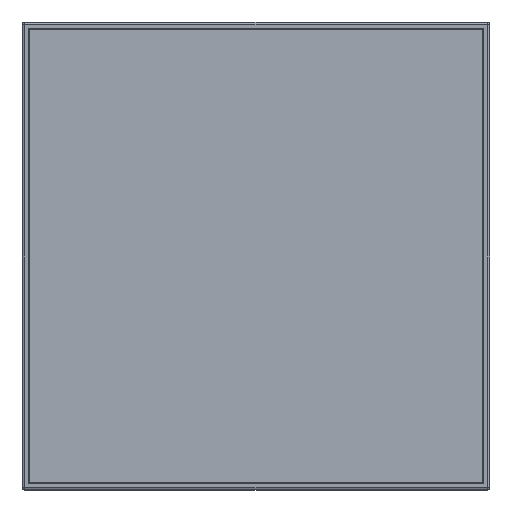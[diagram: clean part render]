
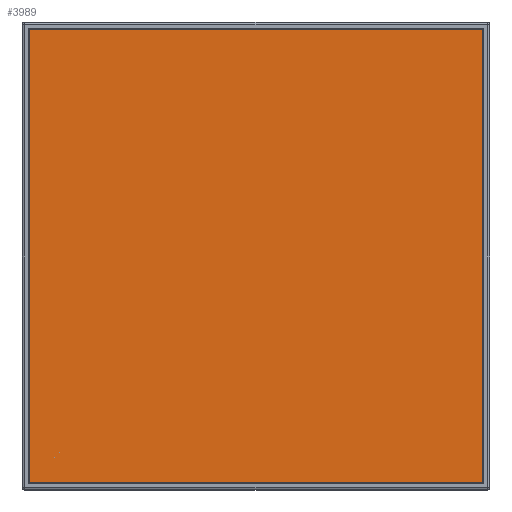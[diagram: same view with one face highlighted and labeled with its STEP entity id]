
A CAD part, front view. The second image highlights one B-rep face of the part: STEP entity #3989.
In plain terms, the highlighted planar face has unit normal (0, -1, 0).
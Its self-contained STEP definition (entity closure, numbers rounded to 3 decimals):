
#206 = ORIENTED_EDGE ( 'NONE', *, *, #6549, .T. ) ;
#296 = LINE ( 'NONE', #7103, #17695 ) ;
#414 = EDGE_CURVE ( 'NONE', #7316, #1938, #8903, .T. ) ;
#502 = CARTESIAN_POINT ( 'NONE',  ( 529.1, 4.02, 529.1 ) ) ;
#1888 = LINE ( 'NONE', #6469, #14975 ) ;
#1938 = VERTEX_POINT ( 'NONE', #9628 ) ;
#2327 = DIRECTION ( 'NONE',  ( 0., 0., 1. ) ) ;
#2402 = ORIENTED_EDGE ( 'NONE', *, *, #12309, .T. ) ;
#2547 = DIRECTION ( 'NONE',  ( 0., 1., 0. ) ) ;
#2727 = VERTEX_POINT ( 'NONE', #18749 ) ;
#3989 = ADVANCED_FACE ( 'NONE', ( #12942 ), #11150, .F. ) ;
#4357 = LINE ( 'NONE', #21768, #11975 ) ;
#5792 = CARTESIAN_POINT ( 'NONE',  ( 0., 4.02, 0. ) ) ;
#6469 = CARTESIAN_POINT ( 'NONE',  ( 529.1, 4.02, 529.1 ) ) ;
#6549 = EDGE_CURVE ( 'NONE', #2727, #18371, #1888, .T. ) ;
#7103 = CARTESIAN_POINT ( 'NONE',  ( 529.1, 4.02, 529.1 ) ) ;
#7316 = VERTEX_POINT ( 'NONE', #20249 ) ;
#8708 = EDGE_LOOP ( 'NONE', ( #13913, #2402, #206, #21354 ) ) ;
#8903 = LINE ( 'NONE', #17278, #17597 ) ;
#9383 = DIRECTION ( 'NONE',  ( 1., 0., 0. ) ) ;
#9628 = CARTESIAN_POINT ( 'NONE',  ( -529.1, 4.02, -529.1 ) ) ;
#10366 = DIRECTION ( 'NONE',  ( 0., 0., -1. ) ) ;
#11150 = PLANE ( 'NONE',  #18774 ) ;
#11975 = VECTOR ( 'NONE', #9383, 1000. ) ;
#12309 = EDGE_CURVE ( 'NONE', #1938, #2727, #4357, .T. ) ;
#12942 = FACE_OUTER_BOUND ( 'NONE', #8708, .T. ) ;
#13913 = ORIENTED_EDGE ( 'NONE', *, *, #414, .T. ) ;
#14975 = VECTOR ( 'NONE', #15073, 1000. ) ;
#15073 = DIRECTION ( 'NONE',  ( 0., 0., 1. ) ) ;
#17278 = CARTESIAN_POINT ( 'NONE',  ( -529.1, 4.02, 529.1 ) ) ;
#17597 = VECTOR ( 'NONE', #10366, 1000. ) ;
#17695 = VECTOR ( 'NONE', #20711, 1000. ) ;
#18371 = VERTEX_POINT ( 'NONE', #502 ) ;
#18749 = CARTESIAN_POINT ( 'NONE',  ( 529.1, 4.02, -529.1 ) ) ;
#18774 = AXIS2_PLACEMENT_3D ( 'NONE', #5792, #2547, #2327 ) ;
#20249 = CARTESIAN_POINT ( 'NONE',  ( -529.1, 4.02, 529.1 ) ) ;
#20711 = DIRECTION ( 'NONE',  ( -1., 0., 0. ) ) ;
#21354 = ORIENTED_EDGE ( 'NONE', *, *, #21866, .T. ) ;
#21768 = CARTESIAN_POINT ( 'NONE',  ( 529.1, 4.02, -529.1 ) ) ;
#21866 = EDGE_CURVE ( 'NONE', #18371, #7316, #296, .T. ) ;
